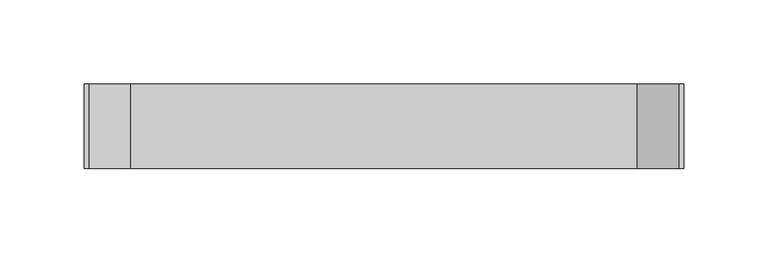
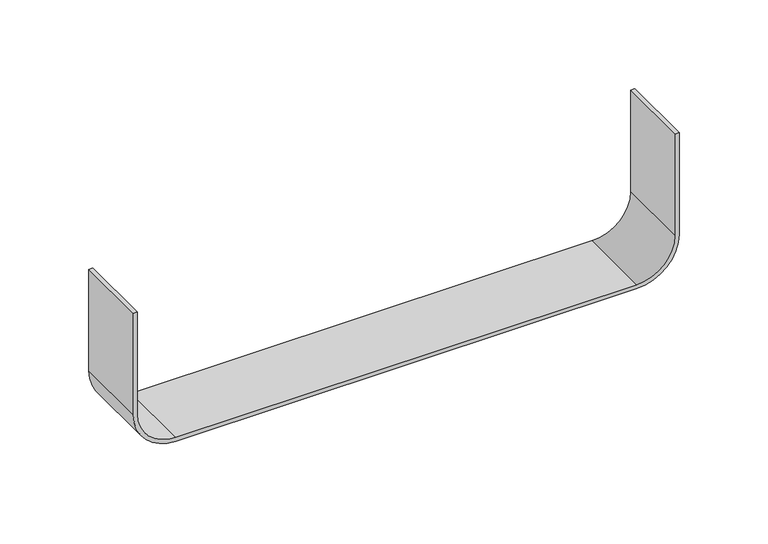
"""IFC4 building model written with IfcOpenShell, lengths in millimetres: cable carrier fitting geometry, CCT_Hyperline_FBTR-CNT Соединение лотков для оптического лотка : Соединение лотков для оптического лотка."""

from ifc_helpers import new_model, si_unit, point, frame, frame_2d, origin, place, context, project, spatial, polyline, circle_curve, trimmed, segment, composite_curve, outline, extrude, source, transform, mapped, element, save


def cable_carrier_fitting_c3bb7252(model_context):
    return source(origin(), model_context, "Body", "SweptSolid", [
        extrude(outline(composite_curve([segment(polyline([(-19.96, -174.96), (50.0, -174.96), (50.0, -177.5), (-19.96, -177.5)]), True, "CONTINUOUS"), segment(trimmed(circle_curve(frame_2d((-19.96, -149.96)), 27.54), [point((-19.96, -177.5))], [point((-47.5, -149.96))], False, "CARTESIAN"), True, "CONTINUOUS"), segment(polyline([(-47.5, -149.96), (-47.5, 149.96)]), True, "CONTINUOUS"), segment(trimmed(circle_curve(frame_2d((-19.96, 149.96)), 27.54), [point((-47.5, 149.96))], [point((-19.96, 177.5))], False, "CARTESIAN"), True, "CONTINUOUS"), segment(polyline([(-19.96, 177.5), (50.0, 177.5), (50.0, 174.96), (-19.96, 174.96)]), True, "CONTINUOUS"), segment(trimmed(circle_curve(frame_2d((-19.96, 149.96)), 25.0), [point((-19.96, 174.96))], [point((-44.96, 149.96))], True, "CARTESIAN"), True, "CONTINUOUS"), segment(polyline([(-44.96, 149.96), (-44.96, -149.96)]), True, "CONTINUOUS"), segment(trimmed(circle_curve(frame_2d((-19.96, -149.96)), 25.0), [point((-44.96, -149.96))], [point((-19.96, -174.96))], True, "CARTESIAN"), True, "CONTINUOUS")], self_intersect=False)), frame((0.0, -25.0, 0.0), z_axis=(0.0, 1.0, 0.0), x_axis=(0.0, 0.0, 1.0)), (0.0, 0.0, 1.0), 50.0),
    ])


if __name__ == "__main__":
    model = new_model("IFC4")
    model_context = context("Model", 3, world=origin())
    ifc_project = project(units=[si_unit("LENGTHUNIT", "METRE", prefix="MILLI")], contexts=[model_context])
    site = spatial("IfcSite", under=ifc_project)
    building = spatial("IfcBuilding", under=site)
    placement = place(None, origin())
    cable_carrier_fitting_shape = cable_carrier_fitting_c3bb7252(model_context)
    element("IfcCableCarrierFitting", 1, ObjectType="CCT_Hyperline_FBTR-CNT Соединение лотков для оптического лотка : Соединение лотков для оптического лотка", at=placement, inside=building, context=model_context, shape_type="MappedRepresentation", body=[
        mapped(cable_carrier_fitting_shape, transform((0.0, 0.0, 0.0), x_axis=(1.0, 0.0, 0.0), y_axis=(0.0, 1.0, 0.0), z_axis=(0.0, 0.0, 1.0))),
    ])
    save(model, "model.ifc")
